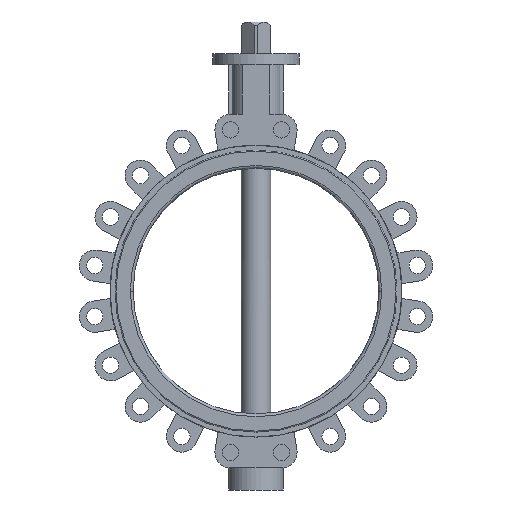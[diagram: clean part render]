
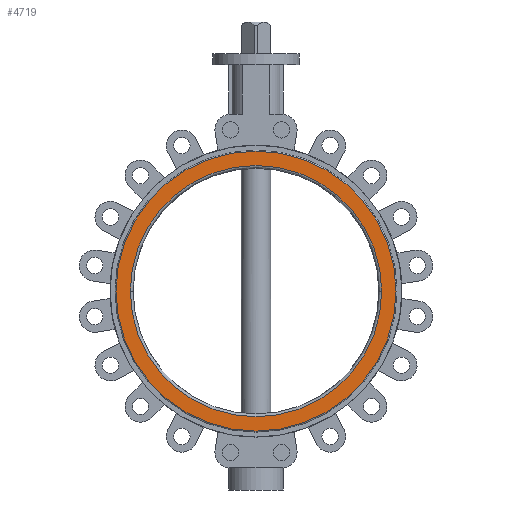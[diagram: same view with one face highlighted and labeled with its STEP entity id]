
A CAD part, front view. The second image highlights one B-rep face of the part: STEP entity #4719.
In plain terms, the highlighted planar face has unit normal (0, -1, 0) as drawn and (-1, 0, 0) by its records, which use the part's own axes.
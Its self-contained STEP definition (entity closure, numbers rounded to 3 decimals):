
#109 = DIRECTION ( 'NONE',  ( -1., 0., 0. ) ) ;
#518 = FACE_BOUND ( 'NONE', #8025, .T. ) ;
#779 = CARTESIAN_POINT ( 'NONE',  ( -66.5, 0., 0. ) ) ;
#996 = EDGE_LOOP ( 'NONE', ( #7956, #8319 ) ) ;
#1185 = AXIS2_PLACEMENT_3D ( 'NONE', #5718, #1584, #2974 ) ;
#1584 = DIRECTION ( 'NONE',  ( -1., 0., 0. ) ) ;
#1792 = DIRECTION ( 'NONE',  ( -1., 0., 0. ) ) ;
#2403 = VERTEX_POINT ( 'NONE', #3106 ) ;
#2480 = VERTEX_POINT ( 'NONE', #3024 ) ;
#2940 = VERTEX_POINT ( 'NONE', #4534 ) ;
#2974 = DIRECTION ( 'NONE',  ( 0., 0., 1. ) ) ;
#3024 = CARTESIAN_POINT ( 'NONE',  ( -66.5, 0., -254.025 ) ) ;
#3106 = CARTESIAN_POINT ( 'NONE',  ( -66.5, 0., 254.025 ) ) ;
#3180 = DIRECTION ( 'NONE',  ( 0., 0., -1. ) ) ;
#3187 = AXIS2_PLACEMENT_3D ( 'NONE', #4587, #1792, #3928 ) ;
#3405 = VERTEX_POINT ( 'NONE', #3839 ) ;
#3608 = CIRCLE ( 'NONE', #3187, 254.025 ) ;
#3839 = CARTESIAN_POINT ( 'NONE',  ( -66.5, 0., 283. ) ) ;
#3928 = DIRECTION ( 'NONE',  ( 0., 0., 1. ) ) ;
#4022 = CIRCLE ( 'NONE', #1185, 283. ) ;
#4128 = CARTESIAN_POINT ( 'NONE',  ( -66.5, 0., 0. ) ) ;
#4146 = AXIS2_PLACEMENT_3D ( 'NONE', #779, #109, #6225 ) ;
#4173 = EDGE_CURVE ( 'NONE', #2940, #3405, #4022, .T. ) ;
#4506 = FACE_OUTER_BOUND ( 'NONE', #996, .T. ) ;
#4534 = CARTESIAN_POINT ( 'NONE',  ( -66.5, 0., -283. ) ) ;
#4587 = CARTESIAN_POINT ( 'NONE',  ( -66.5, 0., 0. ) ) ;
#4638 = DIRECTION ( 'NONE',  ( 1., 0., 0. ) ) ;
#4717 = DIRECTION ( 'NONE',  ( -1., 0., 0. ) ) ;
#4719 = ADVANCED_FACE ( 'NONE', ( #518, #4506 ), #6499, .F. ) ;
#4874 = CIRCLE ( 'NONE', #8560, 283. ) ;
#5596 = ORIENTED_EDGE ( 'NONE', *, *, #7632, .F. ) ;
#5718 = CARTESIAN_POINT ( 'NONE',  ( -66.5, 0., 0. ) ) ;
#5803 = ORIENTED_EDGE ( 'NONE', *, *, #6246, .F. ) ;
#5838 = CARTESIAN_POINT ( 'NONE',  ( -66.5, 0., 0. ) ) ;
#6179 = DIRECTION ( 'NONE',  ( 0., 0., 1. ) ) ;
#6225 = DIRECTION ( 'NONE',  ( 0., 0., 1. ) ) ;
#6246 = EDGE_CURVE ( 'NONE', #2403, #2480, #3608, .T. ) ;
#6499 = PLANE ( 'NONE',  #6897 ) ;
#6897 = AXIS2_PLACEMENT_3D ( 'NONE', #5838, #4638, #3180 ) ;
#7202 = EDGE_CURVE ( 'NONE', #3405, #2940, #4874, .T. ) ;
#7632 = EDGE_CURVE ( 'NONE', #2480, #2403, #8681, .T. ) ;
#7956 = ORIENTED_EDGE ( 'NONE', *, *, #7202, .T. ) ;
#8025 = EDGE_LOOP ( 'NONE', ( #5803, #5596 ) ) ;
#8319 = ORIENTED_EDGE ( 'NONE', *, *, #4173, .T. ) ;
#8560 = AXIS2_PLACEMENT_3D ( 'NONE', #4128, #4717, #6179 ) ;
#8681 = CIRCLE ( 'NONE', #4146, 254.025 ) ;
